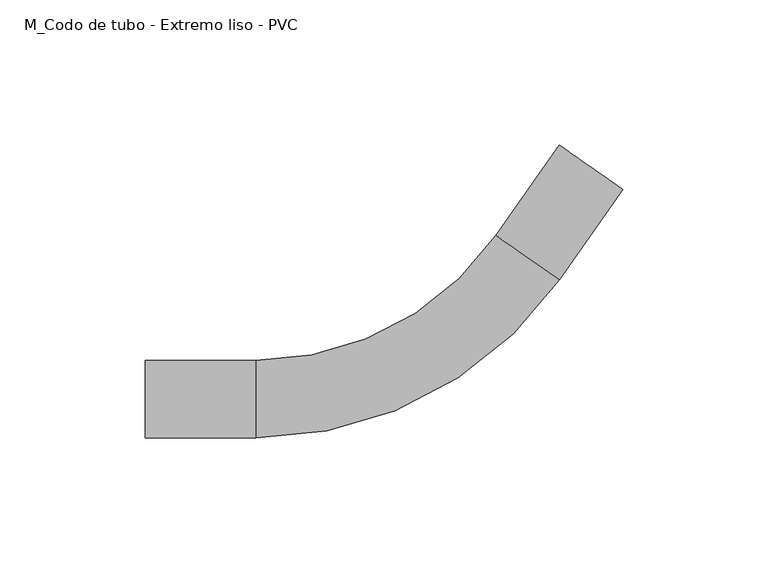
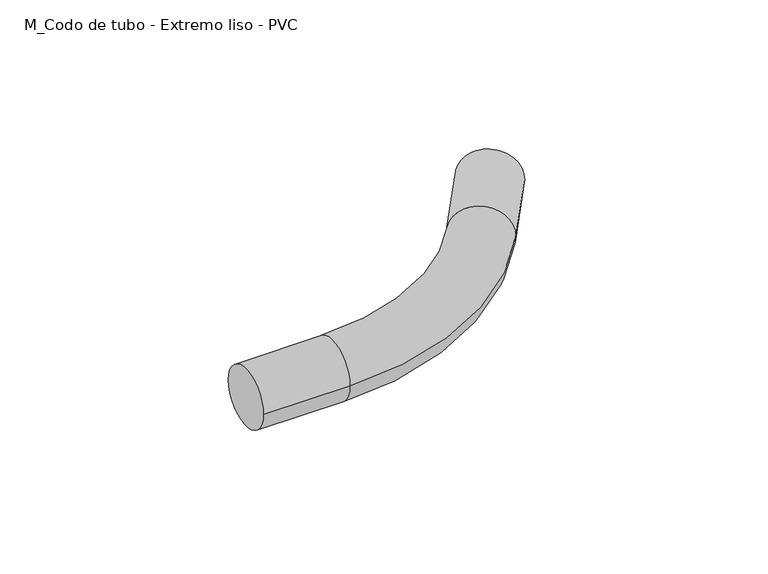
"""IFC4 building model written with IfcOpenShell, lengths in millimetres: cable carrier fitting geometry, M_Codo de tubo - Extremo liso - PVC : CODO ILUMINACION."""

import ifcopenshell
import ifcopenshell.guid

model = None  # the IFC model being written
_history = None  # IfcOwnerHistory: only IFC2X3 demands one
_inside = {}  # id of a spatial element -> (the spatial element, [elements in it])
_under = {}  # id of a project, library or spatial element -> (it, [spatial elements below it])
_declared = {}  # id of a project -> (the project, [libraries it declares])
_typed = {}  # id of a type object -> (the type object, [elements of that type])
_made_of = {}  # id of a material, layer set ... -> (it, [elements and type objects made of it])


def new_model(schema):
    """Start an empty IFC model of exactly this schema.

    Asked for "IFC4X3", IfcOpenShell would pick the latest addendum, in which some entities
    have other attributes; the version numbers below select the first issue.
    IFC2X3 requires an IfcOwnerHistory on every rooted entity: one is made here for all.
    """
    global model, _history
    if schema == "IFC4X3":
        model = ifcopenshell.file(schema_version=(4, 3, 0, 0))
    else:
        model = ifcopenshell.file(schema=schema)
    _inside.clear()
    _under.clear()
    _declared.clear()
    _typed.clear()
    _made_of.clear()
    _history = None
    if model.schema == "IFC2X3":
        org = make("IfcOrganization", Name="unknown")
        user = make(
            "IfcPersonAndOrganization",
            ThePerson=make("IfcPerson", FamilyName="unknown"),
            TheOrganization=org,
        )
        app = make(
            "IfcApplication",
            ApplicationDeveloper=org,
            Version="unknown",
            ApplicationFullName="unknown",
            ApplicationIdentifier="unknown",
        )
        _history = make(
            "IfcOwnerHistory",
            OwningUser=user,
            OwningApplication=app,
            ChangeAction="ADDED",
            CreationDate=0,
        )
    return model


def make(cls, **values):
    """One entity of the class cls with the attributes given. An attribute that is None is left unset."""
    return model.create_entity(
        cls, **{name: value for name, value in values.items() if value is not None}
    )


def rooted(cls, **values):
    """An entity with a GlobalId (a new one), such as an element, a storey or a relation."""
    return make(cls, GlobalId=ifcopenshell.guid.new(), OwnerHistory=_history, **values)


def si_unit(unit_type, name, prefix=None):
    """IfcSIUnit, for example si_unit("LENGTHUNIT", "METRE", prefix="MILLI")."""
    return make("IfcSIUnit", UnitType=unit_type, Prefix=prefix, Name=name)


def assignment(units):
    """IfcUnitAssignment: the units of a project."""
    return None if units is None else make("IfcUnitAssignment", Units=units)


def point(xyz):
    """IfcCartesianPoint."""
    return None if xyz is None else make("IfcCartesianPoint", Coordinates=xyz)


def direction(xyz):
    """IfcDirection."""
    return None if xyz is None else make("IfcDirection", DirectionRatios=xyz)


def frame(location, z_axis=None, x_axis=None):
    """IfcAxis2Placement3D, a coordinate frame: its origin and axes. An axis left out is left unset."""
    return make(
        "IfcAxis2Placement3D",
        Location=point(location),
        Axis=direction(z_axis),
        RefDirection=direction(x_axis),
    )


def origin():
    """The frame at (0, 0, 0) with its axes left unset."""
    return frame((0.0, 0.0, 0.0))


def place(relative_to, where):
    """IfcLocalPlacement: puts the frame where relative to a parent placement (None: the world)."""
    return make(
        "IfcLocalPlacement", PlacementRelTo=relative_to, RelativePlacement=where
    )


def context(
    kind, dimensions, precision=None, world=None, true_north=None, identifier=None
):
    """IfcGeometricRepresentationContext, for example the 3D "Model" context."""
    return make(
        "IfcGeometricRepresentationContext",
        ContextIdentifier=identifier,
        ContextType=kind,
        CoordinateSpaceDimension=dimensions,
        Precision=precision,
        WorldCoordinateSystem=world,
        TrueNorth=true_north,
    )


def project(units=None, contexts=None):
    """IfcProject with its units and contexts."""
    return rooted(
        "IfcProject",
        Name="project",
        RepresentationContexts=contexts,
        UnitsInContext=assignment(units),
    )


def spatial(cls, under=None, at=None, **own):
    """A site, building, storey or space (cls), placed at a placement, below another one or the project."""
    s = rooted(cls, ObjectPlacement=at, **own)
    if under is not None:
        _under.setdefault(under.id(), (under, []))[1].append(s)
    return s


def circle_curve(where, radius):
    """IfcCircle in the frame where."""
    return make("IfcCircle", Position=where, Radius=radius)


def ellipse_curve(where, semi_axis1, semi_axis2):
    """IfcEllipse in the frame where."""
    return make(
        "IfcEllipse", Position=where, SemiAxis1=semi_axis1, SemiAxis2=semi_axis2
    )


def trimmed(basis, trim1, trim2, sense, master):
    """IfcTrimmedCurve: the piece of a basis curve between two trims."""
    return make(
        "IfcTrimmedCurve",
        BasisCurve=basis,
        Trim1=trim1,
        Trim2=trim2,
        SenseAgreement=sense,
        MasterRepresentation=master,
    )


def shape(context_of_items, identifier, shape_type, items):
    """IfcShapeRepresentation: the items that make up one representation, for example the "Body"."""
    return make(
        "IfcShapeRepresentation",
        ContextOfItems=context_of_items,
        RepresentationIdentifier=identifier,
        RepresentationType=shape_type,
        Items=items,
    )


def source(mapping_origin, context_of_items, identifier, shape_type, items):
    """IfcRepresentationMap: a shape defined once, which mapped items show again and again."""
    return make(
        "IfcRepresentationMap",
        MappingOrigin=mapping_origin,
        MappedRepresentation=shape(context_of_items, identifier, shape_type, items),
    )


def transform(
    local_origin,
    x_axis=None,
    y_axis=None,
    z_axis=None,
    scale=None,
    scale2=None,
    scale3=None,
    uniform=True,
):
    """IfcCartesianTransformationOperator3D, or its non-uniform kind. x_axis, y_axis, z_axis: its Axis1, 2, 3."""
    if uniform:
        return make(
            "IfcCartesianTransformationOperator3D",
            Axis1=direction(x_axis),
            Axis2=direction(y_axis),
            LocalOrigin=point(local_origin),
            Scale=scale,
            Axis3=direction(z_axis),
        )
    return make(
        "IfcCartesianTransformationOperator3DnonUniform",
        Axis1=direction(x_axis),
        Axis2=direction(y_axis),
        LocalOrigin=point(local_origin),
        Scale=scale,
        Axis3=direction(z_axis),
        Scale2=scale2,
        Scale3=scale3,
    )


def mapped(mapping_source, mapping_target):
    """IfcMappedItem: shows the shape of a source again, moved by a transform."""
    return make(
        "IfcMappedItem", MappingSource=mapping_source, MappingTarget=mapping_target
    )


def made_of(thing, what):
    """Note that an element or type object is made of a material, layer set ...; save() writes the relation."""
    if what is not None:
        _made_of.setdefault(what.id(), (what, []))[1].append(thing)
    return thing


def element(
    cls,
    number,
    at=None,
    inside=None,
    cuts=None,
    type_object=None,
    material=None,
    context=None,
    identifier="Body",
    shape_type=None,
    held_by="IfcProductDefinitionShape",
    body=None,
    shapes=None,
    **own,
):
    """One element of the class cls, such as IfcWall. Its Tag is "e" and its number.

    at: its placement. inside: the storey or other place that contains it. cuts: it is an
    opening in that element (IfcRelVoidsElement). A single representation is given by context,
    identifier, shape_type and body (its items); several are given by shapes. held_by: the class
    of the entity that holds the representations. save() writes the other relations.
    """
    e = rooted(cls, Tag="e%d" % number, ObjectPlacement=at, **own)
    if body is not None:
        shapes = [shape(context, identifier, shape_type, body)]
    if shapes is not None:
        e.Representation = make(held_by, Representations=shapes)
    if inside is not None:
        _inside.setdefault(inside.id(), (inside, []))[1].append(e)
    if cuts is not None:
        rooted(
            "IfcRelVoidsElement", RelatingBuildingElement=cuts, RelatedOpeningElement=e
        )
    if type_object is not None:
        _typed.setdefault(type_object.id(), (type_object, []))[1].append(e)
    return made_of(e, material)


def aggregate(whole, parts):
    """IfcRelAggregates: a whole, such as a stair, and the parts it consists of."""
    return rooted("IfcRelAggregates", RelatingObject=whole, RelatedObjects=parts)


def save(model, path):
    """Write the relations noted so far, then the file.

    IfcRelAggregates (storeys below a building ...), IfcRelContainedInSpatialStructure (elements
    in a storey), IfcRelDefinesByType, IfcRelAssociatesMaterial and IfcRelDeclares: one each for
    every whole, place, type object, material and project.
    """
    for whole, parts in _under.values():
        aggregate(whole, parts)
    for where, things in _inside.values():
        rooted(
            "IfcRelContainedInSpatialStructure",
            RelatedElements=things,
            RelatingStructure=where,
        )
    for kind, things in _typed.values():
        rooted("IfcRelDefinesByType", RelatedObjects=things, RelatingType=kind)
    for what, things in _made_of.values():
        rooted("IfcRelAssociatesMaterial", RelatedObjects=things, RelatingMaterial=what)
    for by, libraries in _declared.values():
        rooted("IfcRelDeclares", RelatingContext=by, RelatedDefinitions=libraries)
    model.write(path)


def plane_surface(at):
    """IfcPlane: the flat surface through the origin of the frame at, square to its z axis."""
    return make("IfcPlane", Position=at)


def cylinder_surface(at, radius):
    """IfcCylindricalSurface: all points at the distance radius from the z axis of the frame at."""
    return make("IfcCylindricalSurface", Position=at, Radius=radius)


def revolved_surface(curve, axis_point, axis_direction):
    """IfcSurfaceOfRevolution: the curve turned about the line through axis_point along axis_direction."""
    return make(
        "IfcSurfaceOfRevolution",
        SweptCurve=make("IfcArbitraryOpenProfileDef", ProfileType="CURVE", Curve=curve),
        AxisPosition=make("IfcAxis1Placement", Location=point(axis_point), Axis=direction(axis_direction)),
    )


def advanced_brep(points, edges, surfaces, faces):
    """IfcAdvancedBrep: a solid bounded by faces that lie on surfaces and meet in shared edges.

    An edge is (start, end): straight between two places in points (the first is 0);
    or (start, end, curve); or (start, end, curve, False) where it runs against its curve.
    A face is (place in surfaces, loops), or (place, loops, False) where it looks against
    its surface's normal. A loop lists edges by number (the first is 1), with a minus sign
    where the edge is run from its end to its start. The first loop is the outer one.
    """
    corners = [point(p) for p in points]
    vertices = [make("IfcVertexPoint", VertexGeometry=c) for c in corners]
    made = []
    for start, end, *more in edges:
        made.append(
            make(
                "IfcEdgeCurve",
                EdgeStart=vertices[start],
                EdgeEnd=vertices[end],
                EdgeGeometry=more[0] if more else make("IfcPolyline", Points=[corners[start], corners[end]]),
                SameSense=more[1] if len(more) > 1 else True,
            )
        )
    hull = []
    for where, loops, *sense in faces:
        bounds = []
        for j, loop in enumerate(loops):
            ring = [make("IfcOrientedEdge", EdgeElement=made[abs(k) - 1], Orientation=k > 0) for k in loop]
            bounds.append(
                make(
                    "IfcFaceOuterBound" if j == 0 else "IfcFaceBound",
                    Bound=make("IfcEdgeLoop", EdgeList=ring),
                    Orientation=True,
                )
            )
        hull.append(make("IfcAdvancedFace", Bounds=bounds, FaceSurface=surfaces[where], SameSense=sense[0] if sense else True))
    return make("IfcAdvancedBrep", Outer=make("IfcClosedShell", CfsFaces=hull))


def m_codo_de_tubo_extremo_liso_pvc_e924b1dc(model_context):
    return source(origin(), model_context, "Body", "AdvancedBrep", [
        advanced_brep(
        [(-97.6008139, -13.335, 0.0), (-97.6008139, 13.335, 0.0), (-59.5008139, -13.335, 0.0), (-59.5008139, 13.335, 0.0), (23.2048723, 56.3888551, 0.0), (45.0516573, 41.0915715, 0.0), (66.9049195, 72.3012644, 0.0), (45.0581345, 87.598548, 0.0)],
        [
            (0, 1, circle_curve(frame((-97.6008139, 0.0, 0.0), z_axis=(-1.0, 0.0, 0.0), x_axis=(0.0, 1.0, 0.0)), 13.335)),
            (1, 0, circle_curve(frame((-97.6008139, 0.0, 0.0), z_axis=(-1.0, 0.0, 0.0), x_axis=(0.0, 1.0, 0.0)), 13.335)),
            (0, 2),
            (2, 3, circle_curve(frame((-59.5008139, 0.0, 0.0), z_axis=(-1.0, 0.0, 0.0), x_axis=(0.0, 1.0, 0.0)), 13.335)),
            (3, 1),
            (3, 2, circle_curve(frame((-59.5008139, 0.0, 0.0), z_axis=(-1.0, 0.0, 0.0), x_axis=(0.0, 1.0, 0.0)), 13.335)),
            (4, 3, circle_curve(frame((-59.5008139, 114.3, 0.0), z_axis=(0.0, 0.0, -1.0), x_axis=(0.0, -1.0, 0.0)), 100.965)),
            (2, 5, circle_curve(frame((-59.5008139, 114.3, 0.0), z_axis=(0.0, 0.0, 1.0), x_axis=(0.0, -1.0, 0.0)), 127.635)),
            (5, 4, circle_curve(frame((34.1282648, 48.7402133, 0.0), z_axis=(-0.5735764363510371, -0.8191520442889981, 0.0), x_axis=(-0.8191520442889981, 0.5735764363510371, 0.0)), 13.335)),
            (4, 5, circle_curve(frame((34.1282648, 48.7402133, 0.0), z_axis=(-0.5735764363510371, -0.8191520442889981, 0.0), x_axis=(-0.8191520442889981, 0.5735764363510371, 0.0)), 13.335)),
            (6, 7, circle_curve(frame((55.981527, 79.9499062, 0.0), z_axis=(0.5735764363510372, 0.8191520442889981, 0.0), x_axis=(-0.8191520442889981, 0.5735764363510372, 0.0)), 13.335)),
            (7, 6, circle_curve(frame((55.981527, 79.9499062, 0.0), z_axis=(0.5735764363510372, 0.8191520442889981, 0.0), x_axis=(-0.8191520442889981, 0.5735764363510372, 0.0)), 13.335)),
            (5, 6),
            (7, 4),
        ],
        [
            plane_surface(frame((-97.6008139, 0.0, 0.0), z_axis=(-1.0, 0.0, 0.0), x_axis=(0.0, 0.0, 1.0))),
            cylinder_surface(frame((-97.6008139, 0.0, 0.0), z_axis=(-1.0, 0.0, 0.0), x_axis=(0.0, 1.0, 0.0)), 13.335),
            revolved_surface(trimmed(ellipse_curve(frame((-59.5008139, 0.0, 0.0), z_axis=(-1.0, 0.0, 0.0), x_axis=(0.0, 1.0, 0.0)), 13.335, 13.335), [point((-59.5008139, -13.335, 0.0))], [point((-59.5008139, 13.335, 0.0))], True, "CARTESIAN"), (-59.5008139, 114.3, 0.0), (0.0, 0.0, 1.0)),
            revolved_surface(trimmed(ellipse_curve(frame((-59.5008139, 0.0, 0.0), z_axis=(-1.0, 0.0, 0.0), x_axis=(0.0, 1.0, 0.0)), 13.335, 13.335), [point((-59.5008139, 13.335, 0.0))], [point((-59.5008139, -13.335, 0.0))], True, "CARTESIAN"), (-59.5008139, 114.3, 0.0), (0.0, 0.0, 1.0)),
            plane_surface(frame((55.981527, 79.9499062, 0.0), z_axis=(0.5735764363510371, 0.8191520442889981, 0.0), x_axis=(0.0, 0.0, 1.0))),
            cylinder_surface(frame((34.1282648, 48.7402133, 0.0), z_axis=(-0.5735764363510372, -0.8191520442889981, 0.0), x_axis=(-0.8191520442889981, 0.5735764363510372, 0.0)), 13.335),
        ],
        [
            (0, [[1, 2]]),
            (1, [[-1, 3, 4, 5]]),
            (1, [[-2, -5, 6, -3]]),
            (2, [[7, -4, 8, 9]]),
            (3, [[-8, -6, -7, 10]]),
            (4, [[11, 12]]),
            (5, [[-9, 13, -12, 14]]),
            (5, [[-10, -14, -11, -13]]),
        ],
    ),
    ])


if __name__ == "__main__":
    model = new_model("IFC4")
    model_context = context("Model", 3, world=origin())
    ifc_project = project(units=[si_unit("LENGTHUNIT", "METRE", prefix="MILLI")], contexts=[model_context])
    site = spatial("IfcSite", under=ifc_project)
    building = spatial("IfcBuilding", under=site)
    placement = place(None, origin())
    m_codo_de_tubo_extremo_liso_pvc_shape = m_codo_de_tubo_extremo_liso_pvc_e924b1dc(model_context)
    element("IfcCableCarrierFitting", 1, ObjectType="M_Codo de tubo - Extremo liso - PVC : CODO ILUMINACION", at=placement, inside=building, context=model_context, shape_type="MappedRepresentation", body=[
        mapped(m_codo_de_tubo_extremo_liso_pvc_shape, transform((0.0, 0.0, 0.0), x_axis=(1.0, 0.0, 0.0), y_axis=(0.0, 1.0, 0.0), z_axis=(0.0, 0.0, 1.0))),
    ])
    save(model, "model.ifc")
